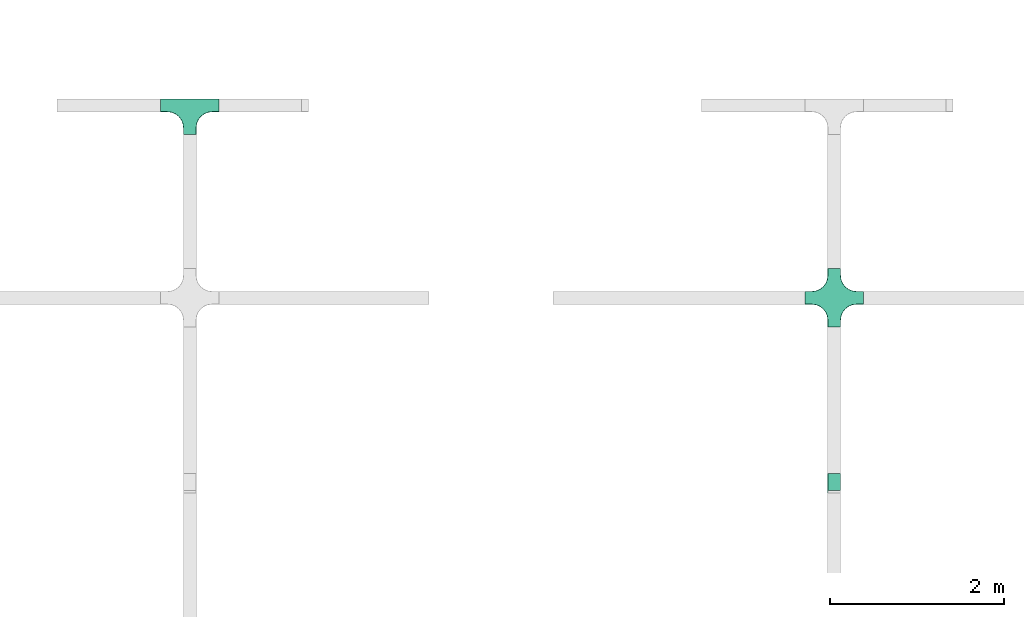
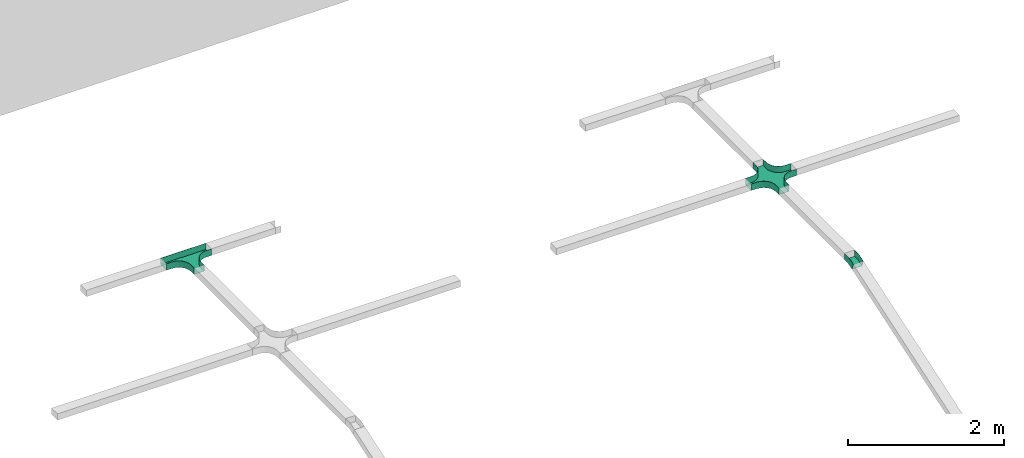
# One storey, part 42 of 197: 3 flow fittings.
"""IFC2X3 building model written with IfcOpenShell, lengths in metres."""

from ifc_helpers import new_model, entity, si_unit, converted_unit, direction, frame, origin, place, context, subcontext, project, spatial, faceted_brep, source, transform, mapped, material, type_object, type_shapes, element, save


model = new_model("IFC2X3")

# Units and contexts
model_context = context("Model", 3, precision=1e-05, world=origin(), true_north=direction((6.123031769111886e-17, 1.0)))
body_context = subcontext(model_context, "Body", "Model", "MODEL_VIEW")
ifc_project = project(units=[si_unit("LENGTHUNIT", "METRE"), converted_unit("PLANEANGLEUNIT", "DEGREE", entity("IfcPlaneAngleMeasure", 0.017453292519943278), si_unit("PLANEANGLEUNIT", "RADIAN"), dimensions=[0, 0, 0, 0, 0, 0, 0]), si_unit("AREAUNIT", "SQUARE_METRE")], contexts=[model_context])

# Site, building, storey
site_placement = place(None, origin())
site = spatial("IfcSite", under=ifc_project, at=site_placement, Name="Default", CompositionType="ELEMENT")
building_placement = place(site_placement, origin())
building = spatial("IfcBuilding", under=site, at=building_placement, CompositionType="ELEMENT")
storey_placement = place(building_placement, origin())
storey = spatial("IfcBuildingStorey", under=building, at=storey_placement, Name="Niveau 0", CompositionType="ELEMENT", Elevation=0.0)

# Flow fittings
ifc_material = material(Name="<Unnamed>")
cable_carrier_fitting_type_1 = type_object("IfcCableCarrierFittingType", Name="Chemin de câbles - Té:CDC CFA", PredefinedType="NOTDEFINED", material=ifc_material)
shared_shape_1 = source(origin(), body_context, "Body", "Brep", [
    faceted_brep([(0.2084125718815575, -0.08113335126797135, 0.04999999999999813), (0.25500000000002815, -0.07500000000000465, 0.04999999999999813), (0.33500000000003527, -0.07500000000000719, 0.04999999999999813), (0.33500000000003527, -0.07246000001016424, 0.04999999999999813), (0.25500000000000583, -0.07246000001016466, 0.04999999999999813), (0.20775517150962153, -0.07867989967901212, 0.04999999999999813), (0.16373000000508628, -0.09691572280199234, 0.04999999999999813), (0.12592472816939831, -0.12592472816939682, 0.04999999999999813), (0.09691572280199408, -0.16373000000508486, 0.04999999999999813), (0.07867989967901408, -0.2077551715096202, 0.04999999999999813), (0.0724600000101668, -0.2550000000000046, 0.04999999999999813), (0.0724600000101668, -0.3350000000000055, 0.04999999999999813), (0.07500000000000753, -0.3350000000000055, 0.04999999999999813), (0.07500000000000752, -0.2550000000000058, 0.04999999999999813), (0.08113335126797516, -0.20841257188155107, 0.04999999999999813), (0.09911542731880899, -0.16500000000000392, 0.04999999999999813), (0.12772077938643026, -0.12772077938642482, 0.04999999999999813), (0.16500000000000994, -0.09911542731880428, 0.04999999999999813), (-0.25499999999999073, -0.07246000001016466, 0.04999999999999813), (-0.3349999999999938, -0.07246000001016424, 0.04999999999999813), (-0.3349999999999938, -0.07500000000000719, 0.04999999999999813), (-0.25499999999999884, -0.07500000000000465, 0.04999999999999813), (-0.20841257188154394, -0.08113335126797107, 0.04999999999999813), (-0.16499999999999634, -0.09911542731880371, 0.04999999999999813), (-0.12772077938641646, -0.12772077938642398, 0.04999999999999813), (-0.09911542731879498, -0.16500000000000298, 0.04999999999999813), (-0.08113335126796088, -0.20841257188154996, 0.04999999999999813), (-0.07499999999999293, -0.2550000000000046, 0.04999999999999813), (-0.07499999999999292, -0.3350000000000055, 0.04999999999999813), (-0.07246000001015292, -0.3350000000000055, 0.04999999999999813), (-0.0724600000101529, -0.25500000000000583, 0.04999999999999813), (-0.07867989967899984, -0.20775517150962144, 0.04999999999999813), (-0.09691572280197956, -0.1637300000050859, 0.04999999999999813), (-0.12592472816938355, -0.12592472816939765, 0.04999999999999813), (-0.16373000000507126, -0.096915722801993, 0.04999999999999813), (-0.20775517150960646, -0.07867989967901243, 0.04999999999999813), (0.33500000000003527, 0.0749999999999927, 0.04999999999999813), (-0.3349999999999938, 0.0749999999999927, 0.04999999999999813), (-0.33499999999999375, 0.0724600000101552, 0.04999999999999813), (0.33500000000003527, 0.0724600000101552, 0.04999999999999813), (-0.07499999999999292, -0.3350000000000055, -0.05000000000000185), (-0.07499999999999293, -0.2550000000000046, -0.05000000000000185), (-0.08113335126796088, -0.20841257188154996, -0.05000000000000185), (-0.09911542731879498, -0.16500000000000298, -0.05000000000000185), (-0.12772077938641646, -0.12772077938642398, -0.05000000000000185), (-0.16499999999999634, -0.09911542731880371, -0.05000000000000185), (-0.20841257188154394, -0.08113335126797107, -0.05000000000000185), (-0.2549999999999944, -0.07500000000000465, -0.05000000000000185), (-0.3349999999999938, -0.07500000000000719, -0.05000000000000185), (-0.3349999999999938, 0.0749999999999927, -0.05000000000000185), (0.33500000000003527, 0.0749999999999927, -0.05000000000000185), (0.33500000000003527, -0.07500000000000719, -0.05000000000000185), (0.25500000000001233, -0.07500000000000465, -0.05000000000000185), (0.2084125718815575, -0.08113335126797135, -0.05000000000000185), (0.16500000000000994, -0.09911542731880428, -0.05000000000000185), (0.12772077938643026, -0.12772077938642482, -0.05000000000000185), (0.09911542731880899, -0.16500000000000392, -0.05000000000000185), (0.08113335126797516, -0.20841257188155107, -0.05000000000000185), (0.07500000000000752, -0.2550000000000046, -0.05000000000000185), (0.07500000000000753, -0.3350000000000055, -0.05000000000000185), (-0.07499999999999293, -0.2550000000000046, -0.04746000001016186), (0.07246000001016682, -0.3350000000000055, -0.04746000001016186), (-0.07246000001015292, -0.3350000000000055, -0.047460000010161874), (-0.07246000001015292, -0.25500000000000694, -0.047460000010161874), (-0.07867989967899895, -0.20775517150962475, -0.04746000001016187), (-0.09691572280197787, -0.16373000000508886, -0.04746000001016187), (-0.12592472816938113, -0.12592472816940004, -0.04746000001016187), (-0.16373000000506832, -0.09691572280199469, -0.04746000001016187), (-0.20775517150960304, -0.07867989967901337, -0.04746000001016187), (-0.25499999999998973, -0.07246000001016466, -0.04746000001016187), (-0.3349999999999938, -0.07246000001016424, -0.047460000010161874), (0.33500000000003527, -0.07246000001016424, -0.047460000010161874), (0.25500000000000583, -0.07246000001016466, -0.047460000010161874), (-0.3349999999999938, 0.0724600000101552, -0.047460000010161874), (-0.255, -0.07500000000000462, -0.047460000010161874), (0.255000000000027, -0.07500000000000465, -0.04746000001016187), (0.07500000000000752, -0.2550000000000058, -0.04746000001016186), (0.33500000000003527, 0.0724600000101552, -0.04746000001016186), (0.2077551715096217, -0.07867989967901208, -0.04746000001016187), (0.16373000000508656, -0.09691572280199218, -0.04746000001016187), (0.12592472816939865, -0.12592472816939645, -0.04746000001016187), (0.09691572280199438, -0.1637300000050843, -0.04746000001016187), (0.07867989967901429, -0.20775517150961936, -0.04746000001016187), (0.07246000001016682, -0.2550000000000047, -0.04746000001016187)], [[[0, 1, 2, 3, 4, 5, 6, 7, 8, 9, 10, 11, 12, 13, 14, 15, 16, 17]], [[18, 19, 20, 21, 22, 23, 24, 25, 26, 27, 28, 29, 30, 31, 32, 33, 34, 35]], [[36, 37, 38, 39]], [[40, 41, 42, 43, 44, 45, 46, 47, 48, 49, 50, 51, 52, 53, 54, 55, 56, 57, 58, 59]], [[28, 27, 60, 41, 40]], [[29, 28, 40, 59, 12, 11, 61, 62]], [[30, 29, 62, 63]], [[31, 64, 65, 32]], [[32, 65, 66, 33]], [[63, 64, 31, 30]], [[34, 67, 68, 35]], [[35, 68, 69, 18]], [[33, 66, 67, 34]], [[19, 18, 69, 70]], [[4, 3, 71, 72]], [[38, 37, 49, 48, 20, 19, 70, 73]], [[21, 20, 48, 47, 74]], [[2, 1, 75, 52, 51]], [[22, 21, 74, 47, 46]], [[23, 22, 46, 45]], [[45, 44, 24, 23]], [[25, 24, 44, 43]], [[26, 25, 43, 42]], [[27, 26, 42, 41, 60]], [[14, 13, 76, 58, 57]], [[57, 56, 15, 14]], [[15, 56, 55, 16]], [[0, 17, 54, 53]], [[0, 53, 52, 75, 1]], [[54, 17, 16, 55]], [[3, 2, 51, 50, 36, 39, 77, 71]], [[72, 78, 5, 4]], [[79, 6, 5, 78]], [[6, 79, 80, 7]], [[8, 81, 82, 9]], [[9, 82, 83, 10]], [[7, 80, 81, 8]], [[11, 10, 83, 61]], [[13, 12, 59, 58, 76]], [[37, 36, 50, 49]], [[39, 38, 73, 77]], [[73, 70, 69, 68, 67, 66, 65, 64, 63, 62, 61, 83, 82, 81, 80, 79, 78, 72, 71, 77]]]),
])
type_shapes(cable_carrier_fitting_type_1, [shared_shape_1])
flow_fitting_1_placement = place(storey_placement, frame((-510.12398006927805, 153.82491437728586, 2.75)))
element("IfcFlowFitting", 1, at=flow_fitting_1_placement, inside=storey, type_object=cable_carrier_fitting_type_1, material=ifc_material, Name="Chemin de câbles - Té:CDC CFA", ObjectType="Chemin de câbles - Té:CDC CFA", context=body_context, shape_type="MappedRepresentation", body=[
    mapped(shared_shape_1, transform((0.0, 0.0, 0.0), scale=1.0)),
])
cable_carrier_fitting_type_2 = type_object("IfcCableCarrierFittingType", Name="Chemin de câbles - Courbure convexe:CDC CFO", PredefinedType="NOTDEFINED", material=ifc_material)
shared_shape_2 = source(origin(), body_context, "Body", "Brep", [
    faceted_brep([(-0.10757218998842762, -0.050000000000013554, -0.07500000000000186), (-0.10757218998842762, -0.050000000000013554, -0.07246000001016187), (-0.10757218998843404, 0.04746000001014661, -0.07246000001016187), (-0.10757218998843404, 0.047460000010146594, 0.07246000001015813), (-0.10757218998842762, -0.050000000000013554, 0.07246000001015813), (-0.10757218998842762, -0.050000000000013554, 0.07499999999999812), (-0.10757218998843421, 0.04999999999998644, 0.07499999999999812), (-0.10757218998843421, 0.04999999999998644, -0.07500000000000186), (-0.03257218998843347, -0.050000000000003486, 0.07499999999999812), (-0.023983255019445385, -0.04930517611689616, 0.07499999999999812), (-0.012479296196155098, -0.04837453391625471, 0.07499999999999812), (-0.0024328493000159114, -0.04756180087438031, 0.07499999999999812), (0.007613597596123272, -0.046749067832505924, 0.07499999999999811), (0.01739876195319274, -0.04433200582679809, 0.07499999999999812), (0.027183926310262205, -0.04191494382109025, 0.07499999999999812), (0.03838869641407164, -0.03914722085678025, 0.07499999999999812), (0.0467542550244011, -0.03708081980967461, 0.07499999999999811), (0.11787850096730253, -0.013282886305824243, 0.0749999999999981), (0.08614792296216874, 0.08154944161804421, 0.0749999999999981), (0.015023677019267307, 0.05775150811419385, 0.07499999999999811), (-0.008460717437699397, 0.05195055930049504, 0.07499999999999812), (-0.03257218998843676, 0.04999999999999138, 0.07499999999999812), (-0.03257218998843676, 0.04999999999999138, -0.07500000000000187), (-0.008460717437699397, 0.05195055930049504, -0.07500000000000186), (0.015023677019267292, 0.05775150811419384, -0.07500000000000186), (0.08614792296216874, 0.0815494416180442, -0.07500000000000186), (0.11787850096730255, -0.013282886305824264, -0.07500000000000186), (0.04675425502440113, -0.03708081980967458, -0.07500000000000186), (0.038388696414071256, -0.03914722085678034, -0.07500000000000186), (0.027183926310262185, -0.04191494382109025, -0.07500000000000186), (0.01739876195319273, -0.04433200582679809, -0.07500000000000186), (0.007613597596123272, -0.046749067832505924, -0.07500000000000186), (-0.003890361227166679, -0.047679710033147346, -0.07500000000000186), (-0.01539432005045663, -0.048610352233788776, -0.07500000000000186), (-0.03257218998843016, -0.050000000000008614, -0.07500000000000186), (-0.03257218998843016, -0.050000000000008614, -0.07246000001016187), (-0.03257218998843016, -0.050000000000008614, 0.07246000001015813), (-0.022525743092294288, -0.0491872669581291, -0.07246000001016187), (-0.012479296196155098, -0.04837453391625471, -0.07246000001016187), (-0.002432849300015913, -0.04756180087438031, -0.07246000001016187), (0.007613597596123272, -0.046749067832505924, -0.07246000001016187), (0.017398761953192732, -0.04433200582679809, -0.07246000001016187), (0.0271839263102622, -0.04191494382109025, -0.07246000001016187), (0.036969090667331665, -0.03949788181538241, -0.07246000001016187), (0.0467542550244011, -0.03708081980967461, -0.07246000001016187), (0.11787850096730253, -0.013282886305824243, -0.07246000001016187), (0.08695387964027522, 0.07914070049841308, -0.07246000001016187), (0.015829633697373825, 0.055342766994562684, -0.07246000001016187), (-0.008052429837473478, 0.049443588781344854, -0.07246000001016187), (-0.03257218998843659, 0.047460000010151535, -0.07246000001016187), (-0.03257218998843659, 0.04746000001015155, 0.07246000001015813), (-0.008052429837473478, 0.049443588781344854, 0.07246000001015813), (0.015829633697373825, 0.05534276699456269, 0.07246000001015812), (0.08695387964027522, 0.07914070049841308, 0.07246000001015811), (0.11787850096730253, -0.013282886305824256, 0.07246000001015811), (0.04675425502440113, -0.03708081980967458, 0.07246000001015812), (0.036969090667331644, -0.03949788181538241, 0.07246000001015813), (0.027183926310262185, -0.04191494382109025, 0.07246000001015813), (0.017398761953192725, -0.04433200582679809, 0.07246000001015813), (0.007613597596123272, -0.046749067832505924, 0.07246000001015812), (-0.0024328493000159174, -0.04756180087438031, 0.07246000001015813), (-0.012479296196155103, -0.04837453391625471, 0.07246000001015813), (-0.022525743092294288, -0.0491872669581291, 0.07246000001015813)], [[[0, 1, 2, 3, 4, 5, 6, 7]], [[5, 8, 9, 10, 11, 12, 13, 14, 15, 16, 17, 18, 19, 20, 21, 6]], [[7, 6, 21, 22]], [[7, 22, 23, 24, 25, 26, 27, 28, 29, 30, 31, 32, 33, 34, 0]], [[1, 0, 34, 35]], [[5, 4, 36, 8]], [[1, 35, 37, 38, 39, 40, 41, 42, 43, 44, 45, 46, 47, 48, 49, 2]], [[3, 2, 49, 50]], [[3, 50, 51, 52, 53, 54, 55, 56, 57, 58, 59, 60, 61, 62, 36, 4]], [[22, 21, 20, 23]], [[19, 24, 23, 20]], [[33, 32, 31, 40, 39, 38, 37, 35, 34]], [[61, 60, 59, 12, 11, 10, 9, 8, 36, 62]], [[42, 41, 40, 31, 30, 29, 28, 27, 44, 43]], [[12, 59, 58, 57, 56, 55, 16, 15, 14, 13]], [[51, 50, 49, 48]], [[51, 48, 47, 52]], [[25, 18, 17, 54, 53, 46, 45, 26]], [[24, 19, 18, 25]], [[44, 27, 26, 45]], [[16, 55, 54, 17]], [[52, 47, 46, 53]]]),
])
type_shapes(cable_carrier_fitting_type_2, [shared_shape_2])
flow_fitting_2_placement = place(storey_placement, frame((-502.73698006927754, 149.49780399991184, 2.7499999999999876), z_axis=(-1.0, 0.0, 0.0), x_axis=(0.0, 0.9483232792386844, 0.31730578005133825)))
element("IfcFlowFitting", 2, at=flow_fitting_2_placement, inside=storey, type_object=cable_carrier_fitting_type_2, material=ifc_material, Name="Chemin de câbles - Courbure convexe:CDC CFO", ObjectType="Chemin de câbles - Courbure convexe:CDC CFO", context=body_context, shape_type="MappedRepresentation", body=[
    mapped(shared_shape_2, transform((0.0, 0.0, 0.0), scale=1.0)),
])
cable_carrier_fitting_type_3 = type_object("IfcCableCarrierFittingType", Name="Chemin de câbles - Croix:CDC CFO", PredefinedType="NOTDEFINED", material=ifc_material)
shared_shape_3 = source(origin(), body_context, "Body", "Brep", [
    faceted_brep([(-0.2549999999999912, -0.07246000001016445, 0.04999999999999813), (-0.3349999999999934, -0.07246000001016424, 0.04999999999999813), (-0.3349999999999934, -0.07500000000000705, 0.04999999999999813), (-0.254999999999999, -0.07500000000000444, 0.04999999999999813), (-0.20841257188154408, -0.0811333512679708, 0.04999999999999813), (-0.1649999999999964, -0.0991154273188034, 0.04999999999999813), (-0.12772077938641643, -0.12772077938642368, 0.04999999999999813), (-0.09911542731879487, -0.16500000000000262, 0.04999999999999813), (-0.08113335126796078, -0.20841257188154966, 0.04999999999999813), (-0.0749999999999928, -0.25500000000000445, 0.04999999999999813), (-0.07499999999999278, -0.33500000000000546, 0.04999999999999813), (-0.07246000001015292, -0.33500000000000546, 0.04999999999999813), (-0.0724600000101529, -0.2550000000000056, 0.04999999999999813), (-0.07867989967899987, -0.20775517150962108, 0.04999999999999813), (-0.09691572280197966, -0.16373000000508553, 0.04999999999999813), (-0.12592472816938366, -0.12592472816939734, 0.04999999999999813), (-0.16373000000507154, -0.09691572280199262, 0.04999999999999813), (-0.2077551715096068, -0.07867989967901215, 0.04999999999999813), (0.20841257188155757, -0.08113335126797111, 0.04999999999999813), (0.2550000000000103, -0.07500000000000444, 0.04999999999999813), (0.33500000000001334, -0.07500000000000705, 0.04999999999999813), (0.33500000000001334, -0.07246000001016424, 0.04999999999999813), (0.2550000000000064, -0.07246000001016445, 0.04999999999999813), (0.2077551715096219, -0.07867989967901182, 0.04999999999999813), (0.16373000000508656, -0.09691572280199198, 0.04999999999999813), (0.12592472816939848, -0.12592472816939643, 0.04999999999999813), (0.09691572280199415, -0.16373000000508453, 0.04999999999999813), (0.07867989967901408, -0.20775517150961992, 0.04999999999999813), (0.0724600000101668, -0.25500000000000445, 0.04999999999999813), (0.0724600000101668, -0.33500000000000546, 0.04999999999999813), (0.0750000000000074, -0.33500000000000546, 0.04999999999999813), (0.07500000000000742, -0.2550000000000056, 0.04999999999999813), (0.08113335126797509, -0.20841257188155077, 0.04999999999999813), (0.09911542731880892, -0.16500000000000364, 0.04999999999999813), (0.12772077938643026, -0.1277207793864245, 0.04999999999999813), (0.16500000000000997, -0.09911542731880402, 0.04999999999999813), (-0.0811333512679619, 0.20841257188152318, 0.04999999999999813), (-0.0991154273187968, 0.1649999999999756, 0.04999999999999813), (-0.12772077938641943, 0.1277207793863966, 0.04999999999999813), (-0.1650000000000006, 0.09911542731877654, 0.04999999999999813), (-0.20841257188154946, 0.08113335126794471, 0.04999999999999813), (-0.25500000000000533, 0.07499999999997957, 0.04999999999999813), (-0.3349999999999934, 0.07499999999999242, 0.04999999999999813), (-0.3349999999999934, 0.07246000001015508, 0.04999999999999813), (-0.255000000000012, 0.07246000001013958, 0.04999999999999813), (-0.2077551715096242, 0.07867989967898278, 0.04999999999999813), (-0.1637300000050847, 0.09691572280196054, 0.04999999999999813), (-0.12592472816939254, 0.12592472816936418, 0.04999999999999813), (-0.09691572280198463, 0.16373000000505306, 0.04999999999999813), (-0.078679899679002, 0.20775517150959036, 0.04999999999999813), (-0.07246000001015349, 0.25499999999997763, 0.04999999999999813), (-0.07246000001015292, 0.3349999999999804, 0.04999999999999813), (-0.07499999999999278, 0.3349999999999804, 0.04999999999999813), (-0.07499999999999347, 0.25499999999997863, 0.04999999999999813), (0.0750000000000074, 0.3349999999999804, 0.04999999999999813), (0.0724600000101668, 0.3349999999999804, 0.04999999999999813), (0.07246000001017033, 0.254999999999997, 0.04999999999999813), (0.0786798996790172, 0.207755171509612, 0.04999999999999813), (0.09691572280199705, 0.1637300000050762, 0.04999999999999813), (0.1259247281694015, 0.1259247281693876, 0.04999999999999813), (0.16373000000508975, 0.09691572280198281, 0.04999999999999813), (0.20775517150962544, 0.07867989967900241, 0.04999999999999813), (0.2550000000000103, 0.07246000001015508, 0.04999999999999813), (0.33500000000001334, 0.07246000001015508, 0.04999999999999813), (0.33500000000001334, 0.07499999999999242, 0.04999999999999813), (0.2550000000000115, 0.07499999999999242, 0.04999999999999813), (0.2084125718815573, 0.08113335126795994, 0.04999999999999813), (0.16500000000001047, 0.09911542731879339, 0.04999999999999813), (0.1277207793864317, 0.1277207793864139, 0.04999999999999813), (0.09911542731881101, 0.16499999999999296, 0.04999999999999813), (0.08113335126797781, 0.20841257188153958, 0.04999999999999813), (0.07500000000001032, 0.2549999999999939, 0.04999999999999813), (-0.08113335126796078, -0.20841257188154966, -0.05000000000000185), (-0.09911542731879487, -0.16500000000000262, -0.05000000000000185), (-0.12772077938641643, -0.12772077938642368, -0.05000000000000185), (-0.1649999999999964, -0.0991154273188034, -0.05000000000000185), (-0.20841257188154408, -0.0811333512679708, -0.05000000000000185), (-0.25499999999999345, -0.07500000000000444, -0.05000000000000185), (-0.3349999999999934, -0.07500000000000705, -0.05000000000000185), (-0.3349999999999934, 0.07499999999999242, -0.05000000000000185), (-0.2550000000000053, 0.07499999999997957, -0.05000000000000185), (-0.20841257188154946, 0.08113335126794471, -0.05000000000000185), (-0.1650000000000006, 0.09911542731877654, -0.05000000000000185), (-0.12772077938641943, 0.1277207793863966, -0.05000000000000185), (-0.0991154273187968, 0.1649999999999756, -0.05000000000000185), (-0.0811333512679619, 0.20841257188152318, -0.05000000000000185), (-0.07499999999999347, 0.2549999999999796, -0.05000000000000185), (-0.07499999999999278, 0.3349999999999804, -0.05000000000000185), (0.0750000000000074, 0.3349999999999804, -0.05000000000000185), (0.07500000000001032, 0.2549999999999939, -0.05000000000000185), (0.08113335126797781, 0.20841257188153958, -0.05000000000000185), (0.09911542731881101, 0.16499999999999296, -0.05000000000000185), (0.1277207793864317, 0.1277207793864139, -0.05000000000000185), (0.16500000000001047, 0.09911542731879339, -0.05000000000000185), (0.2084125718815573, 0.08113335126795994, -0.05000000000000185), (0.2550000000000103, 0.07499999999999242, -0.05000000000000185), (0.33500000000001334, 0.07499999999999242, -0.05000000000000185), (0.33500000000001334, -0.07500000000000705, -0.05000000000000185), (0.25500000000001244, -0.07500000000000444, -0.05000000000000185), (0.20841257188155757, -0.08113335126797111, -0.05000000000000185), (0.16500000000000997, -0.09911542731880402, -0.05000000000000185), (0.12772077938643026, -0.1277207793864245, -0.05000000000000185), (0.09911542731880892, -0.16500000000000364, -0.05000000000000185), (0.08113335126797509, -0.20841257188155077, -0.05000000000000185), (0.07500000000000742, -0.2550000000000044, -0.05000000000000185), (0.0750000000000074, -0.33500000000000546, -0.05000000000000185), (-0.07499999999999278, -0.33500000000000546, -0.05000000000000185), (-0.0749999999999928, -0.25500000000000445, -0.05000000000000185), (-0.0749999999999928, -0.25500000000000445, -0.04746000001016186), (-0.07499999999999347, 0.25499999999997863, -0.047460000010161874), (0.07246000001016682, -0.33500000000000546, -0.04746000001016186), (-0.07246000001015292, -0.33500000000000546, -0.047460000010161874), (-0.07246000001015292, -0.2550000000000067, -0.047460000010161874), (-0.07246000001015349, 0.25499999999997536, -0.04746000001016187), (-0.07246000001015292, 0.3349999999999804, -0.04746000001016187), (-0.078679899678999, -0.2077551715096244, -0.04746000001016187), (-0.09691572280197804, -0.1637300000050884, -0.04746000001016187), (-0.12592472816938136, -0.12592472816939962, -0.04746000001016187), (-0.16373000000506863, -0.09691572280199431, -0.04746000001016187), (-0.20775517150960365, -0.07867989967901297, -0.04746000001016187), (-0.2549999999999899, -0.07246000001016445, -0.04746000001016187), (-0.3349999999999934, -0.07246000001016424, -0.047460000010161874), (0.33500000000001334, -0.07246000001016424, -0.047460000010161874), (0.2550000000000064, -0.07246000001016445, -0.047460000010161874), (-0.3349999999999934, 0.07246000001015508, -0.047460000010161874), (-0.25500000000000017, -0.07500000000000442, -0.047460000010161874), (0.25500000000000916, -0.07500000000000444, -0.04746000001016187), (0.07500000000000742, -0.2550000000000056, -0.04746000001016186), (0.33500000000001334, 0.07246000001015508, -0.04746000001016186), (0.20775517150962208, -0.07867989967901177, -0.04746000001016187), (0.16373000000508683, -0.0969157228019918, -0.04746000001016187), (0.12592472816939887, -0.125924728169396, -0.04746000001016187), (0.09691572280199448, -0.16373000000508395, -0.04746000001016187), (0.07867989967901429, -0.20775517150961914, -0.04746000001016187), (0.07246000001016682, -0.2550000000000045, -0.04746000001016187), (0.07246000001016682, 0.3349999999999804, -0.04746000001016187), (0.07246000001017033, 0.2549999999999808, -0.04746000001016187), (0.07500000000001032, 0.2549999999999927, -0.04746000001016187), (-0.07867989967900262, 0.2077551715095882, -0.04746000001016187), (-0.09691572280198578, 0.16373000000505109, -0.04746000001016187), (-0.12592472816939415, 0.12592472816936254, -0.04746000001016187), (-0.16373000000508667, 0.09691572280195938, -0.04746000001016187), (-0.2077551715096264, 0.07867989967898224, -0.04746000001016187), (-0.2550000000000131, 0.07246000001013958, -0.04746000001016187), (0.255000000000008, 0.07246000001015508, -0.04746000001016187), (0.20775517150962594, 0.07867989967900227, -0.04746000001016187), (0.16373000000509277, 0.09691572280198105, -0.04746000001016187), (0.1259247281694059, 0.12592472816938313, -0.04746000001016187), (0.09691572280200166, 0.1637300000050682, -0.04746000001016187), (0.07867989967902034, 0.20775517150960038, -0.04746000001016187), (-0.2550000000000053, 0.07499999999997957, -0.04746000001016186), (0.2550000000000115, 0.07499999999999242, -0.047460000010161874)], [[[0, 1, 2, 3, 4, 5, 6, 7, 8, 9, 10, 11, 12, 13, 14, 15, 16, 17]], [[18, 19, 20, 21, 22, 23, 24, 25, 26, 27, 28, 29, 30, 31, 32, 33, 34, 35]], [[36, 37, 38, 39, 40, 41, 42, 43, 44, 45, 46, 47, 48, 49, 50, 51, 52, 53]], [[54, 55, 56, 57, 58, 59, 60, 61, 62, 63, 64, 65, 66, 67, 68, 69, 70, 71]], [[72, 73, 74, 75, 76, 77, 78, 79, 80, 81, 82, 83, 84, 85, 86, 87, 88, 89, 90, 91, 92, 93, 94, 95, 96, 97, 98, 99, 100, 101, 102, 103, 104, 105, 106, 107]], [[10, 9, 108, 107, 106]], [[53, 52, 87, 86, 109]], [[11, 10, 106, 105, 30, 29, 110, 111]], [[12, 11, 111, 112]], [[51, 50, 113, 114]], [[13, 115, 116, 14]], [[14, 116, 117, 15]], [[112, 115, 13, 12]], [[16, 118, 119, 17]], [[17, 119, 120, 0]], [[15, 117, 118, 16]], [[1, 0, 120, 121]], [[22, 21, 122, 123]], [[43, 42, 79, 78, 2, 1, 121, 124]], [[3, 2, 78, 77, 125]], [[20, 19, 126, 98, 97]], [[4, 3, 125, 77, 76]], [[5, 4, 76, 75]], [[75, 74, 6, 5]], [[7, 6, 74, 73]], [[8, 7, 73, 72]], [[9, 8, 72, 107, 108]], [[32, 31, 127, 104, 103]], [[103, 102, 33, 32]], [[33, 102, 101, 34]], [[18, 35, 100, 99]], [[18, 99, 98, 126, 19]], [[100, 35, 34, 101]], [[21, 20, 97, 96, 64, 63, 128, 122]], [[123, 129, 23, 22]], [[130, 24, 23, 129]], [[24, 130, 131, 25]], [[26, 132, 133, 27]], [[27, 133, 134, 28]], [[25, 131, 132, 26]], [[29, 28, 134, 110]], [[56, 55, 135, 136]], [[31, 30, 105, 104, 127]], [[54, 71, 137, 89, 88]], [[138, 139, 140, 141, 142, 143, 124, 121, 120, 119, 118, 117, 116, 115, 112, 111, 110, 134, 133, 132, 131, 130, 129, 123, 122, 128, 144, 145, 146, 147, 148, 149, 136, 135, 114, 113]], [[42, 41, 150, 80, 79]], [[65, 64, 96, 95, 151]], [[44, 43, 124, 143]], [[63, 62, 144, 128]], [[45, 142, 141, 46]], [[46, 141, 140, 47]], [[143, 142, 45, 44]], [[48, 139, 138, 49]], [[49, 138, 113, 50]], [[47, 140, 139, 48]], [[55, 54, 88, 87, 52, 51, 114, 135]], [[36, 53, 109, 86, 85]], [[83, 38, 37, 84]], [[37, 36, 85, 84]], [[40, 39, 82, 81]], [[40, 81, 80, 150, 41]], [[82, 39, 38, 83]], [[148, 147, 59, 58]], [[56, 136, 149, 57]], [[57, 149, 148, 58]], [[60, 146, 145, 61]], [[61, 145, 144, 62]], [[59, 147, 146, 60]], [[151, 95, 94, 66, 65]], [[93, 92, 68, 67]], [[93, 67, 66, 94]], [[70, 69, 91, 90]], [[70, 90, 89, 137, 71]], [[91, 69, 68, 92]]]),
])
type_shapes(cable_carrier_fitting_type_3, [shared_shape_3])
flow_fitting_3_placement = place(storey_placement, frame((-502.73698006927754, 151.61891437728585, 2.7500000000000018), z_axis=(0.0, 0.0, 1.0), x_axis=(-1.0, 0.0, 0.0)))
element("IfcFlowFitting", 3, at=flow_fitting_3_placement, inside=storey, type_object=cable_carrier_fitting_type_3, material=ifc_material, Name="Chemin de câbles - Croix:CDC CFO", ObjectType="Chemin de câbles - Croix:CDC CFO", context=body_context, shape_type="MappedRepresentation", body=[
    mapped(shared_shape_3, transform((0.0, 0.0, 0.0), scale=1.0)),
])

save(model, "model.ifc")
